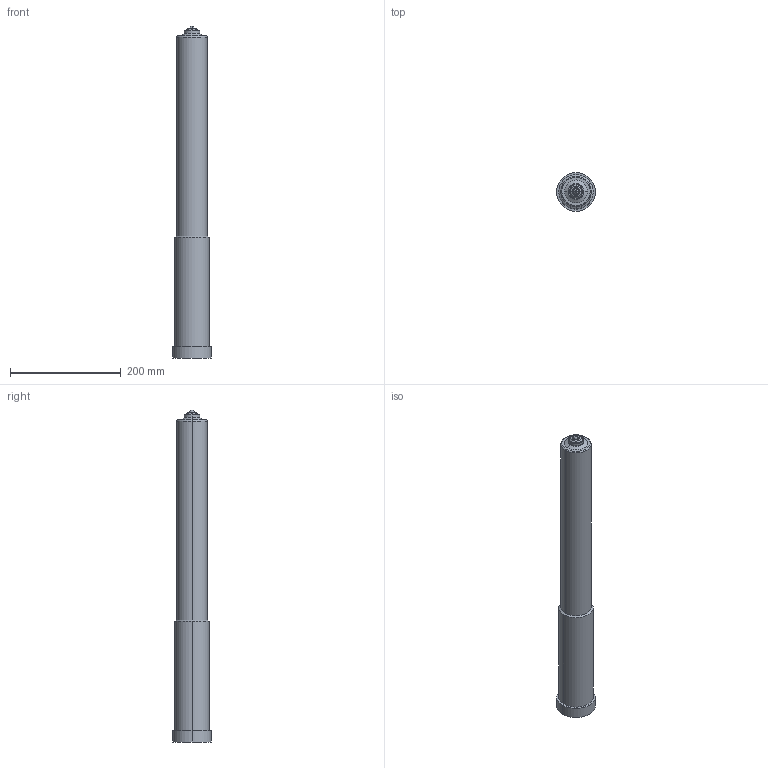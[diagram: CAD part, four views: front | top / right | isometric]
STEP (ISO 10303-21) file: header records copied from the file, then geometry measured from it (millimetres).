
FILE_DESCRIPTION (( 'STEP AP214' ), '1' );
FILE_NAME ('22E-06-600-TTW.STEP', '2022-01-10T08:53:40', ( '' ), ( '' ), 'SwSTEP 2.0', 'SolidWorks 2018', '' );
FILE_SCHEMA (( 'AUTOMOTIVE_DESIGN' ));
Length unit declared in the file: millimetre
Products named in the file (2): cutout_22E-06-600-TTW; 22E-06-600-TTW
Assembly tree (1 placements, depth 2):
  22E-06-600-TTW
    cutout_22E-06-600-TTW
Bounding box: 70 x 70 x 600 mm (x, y, z)
Volume: 1548685.1 mm3; surface area: 113878.7 mm2
Topology: 1 solids, 1 shells, 34 faces, 68 edges, 40 vertices
Faces by surface type: cylinder 10, cone 10, torus 6, plane 6, sphere 2
Entity records: 958 total; most frequent: DIRECTION 192, CARTESIAN_POINT 146, ORIENTED_EDGE 136, AXIS2_PLACEMENT_3D 86, EDGE_CURVE 68, CIRCLE 48, VERTEX_POINT 40, EDGE_LOOP 38
